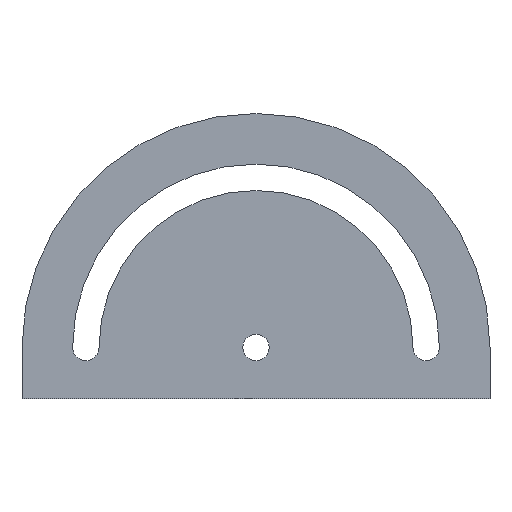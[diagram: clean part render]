
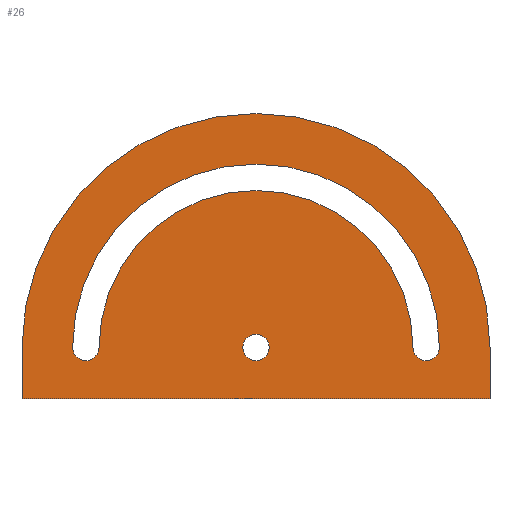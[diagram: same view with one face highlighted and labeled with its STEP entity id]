
A CAD part, left-side view. The second image highlights one B-rep face of the part: STEP entity #26.
In plain terms, the highlighted planar face has unit normal (-1, 0, 0).
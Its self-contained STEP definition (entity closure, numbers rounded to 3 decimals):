
#4 = CARTESIAN_POINT ( 'NONE',  ( -10.582, -43.294, 12. ) ) ;
#10 = ORIENTED_EDGE ( 'NONE', *, *, #97, .F. ) ;
#22 = DIRECTION ( 'NONE',  ( 0., 1., 0. ) ) ;
#26 = ADVANCED_FACE ( 'NONE', ( #772, #575, #186 ), #604, .F. ) ;
#52 = DIRECTION ( 'NONE',  ( 0., -1., 0. ) ) ;
#58 = CARTESIAN_POINT ( 'NONE',  ( -10.582, 11.706, 12. ) ) ;
#59 = DIRECTION ( 'NONE',  ( -1., 0., 0. ) ) ;
#62 = CIRCLE ( 'NONE', #657, 3.1 ) ;
#93 = CARTESIAN_POINT ( 'NONE',  ( -10.582, -98.294, 0. ) ) ;
#97 = EDGE_CURVE ( 'NONE', #469, #136, #62, .T. ) ;
#115 = DIRECTION ( 'NONE',  ( 0., 0., -1. ) ) ;
#120 = VERTEX_POINT ( 'NONE', #219 ) ;
#126 = ORIENTED_EDGE ( 'NONE', *, *, #864, .T. ) ;
#127 = CARTESIAN_POINT ( 'NONE',  ( -10.582, 11.706, 3. ) ) ;
#132 = EDGE_CURVE ( 'NONE', #136, #469, #595, .T. ) ;
#134 = CIRCLE ( 'NONE', #925, 36.9 ) ;
#136 = VERTEX_POINT ( 'NONE', #654 ) ;
#147 = VERTEX_POINT ( 'NONE', #449 ) ;
#168 = CIRCLE ( 'NONE', #549, 3.1 ) ;
#178 = DIRECTION ( 'NONE',  ( 0., -1., 0. ) ) ;
#182 = DIRECTION ( 'NONE',  ( 0., -1., 0. ) ) ;
#184 = VERTEX_POINT ( 'NONE', #809 ) ;
#186 = FACE_BOUND ( 'NONE', #818, .T. ) ;
#219 = CARTESIAN_POINT ( 'NONE',  ( -10.582, -86.394, 12. ) ) ;
#226 = EDGE_LOOP ( 'NONE', ( #612, #911, #529, #373 ) ) ;
#230 = VECTOR ( 'NONE', #115, 1000. ) ;
#252 = CARTESIAN_POINT ( 'NONE',  ( -10.582, -43.294, 12. ) ) ;
#280 = LINE ( 'NONE', #711, #671 ) ;
#288 = DIRECTION ( 'NONE',  ( -1., 0., 0. ) ) ;
#291 = ORIENTED_EDGE ( 'NONE', *, *, #913, .T. ) ;
#307 = CIRCLE ( 'NONE', #380, 3.1 ) ;
#356 = EDGE_CURVE ( 'NONE', #147, #880, #459, .T. ) ;
#373 = ORIENTED_EDGE ( 'NONE', *, *, #817, .F. ) ;
#376 = VERTEX_POINT ( 'NONE', #430 ) ;
#380 = AXIS2_PLACEMENT_3D ( 'NONE', #578, #717, #777 ) ;
#384 = CARTESIAN_POINT ( 'NONE',  ( -10.582, 11.706, 3. ) ) ;
#393 = ORIENTED_EDGE ( 'NONE', *, *, #132, .F. ) ;
#406 = AXIS2_PLACEMENT_3D ( 'NONE', #850, #59, #52 ) ;
#423 = AXIS2_PLACEMENT_3D ( 'NONE', #384, #663, #22 ) ;
#430 = CARTESIAN_POINT ( 'NONE',  ( -10.582, -6.394, 12. ) ) ;
#431 = EDGE_CURVE ( 'NONE', #147, #700, #768, .T. ) ;
#449 = CARTESIAN_POINT ( 'NONE',  ( -10.582, -98.294, 12. ) ) ;
#455 = DIRECTION ( 'NONE',  ( -1., 0., 0. ) ) ;
#459 = CIRCLE ( 'NONE', #406, 55. ) ;
#469 = VERTEX_POINT ( 'NONE', #651 ) ;
#516 = EDGE_LOOP ( 'NONE', ( #126, #778, #849, #291 ) ) ;
#529 = ORIENTED_EDGE ( 'NONE', *, *, #690, .F. ) ;
#549 = AXIS2_PLACEMENT_3D ( 'NONE', #622, #623, #830 ) ;
#564 = VERTEX_POINT ( 'NONE', #891 ) ;
#575 = FACE_BOUND ( 'NONE', #226, .T. ) ;
#578 = CARTESIAN_POINT ( 'NONE',  ( -10.582, -83.294, 12. ) ) ;
#595 = CIRCLE ( 'NONE', #754, 3.1 ) ;
#604 = PLANE ( 'NONE',  #423 ) ;
#612 = ORIENTED_EDGE ( 'NONE', *, *, #769, .F. ) ;
#622 = CARTESIAN_POINT ( 'NONE',  ( -10.582, -3.294, 12. ) ) ;
#623 = DIRECTION ( 'NONE',  ( -1., 0., 0. ) ) ;
#649 = CARTESIAN_POINT ( 'NONE',  ( -10.582, -80.194, 12. ) ) ;
#651 = CARTESIAN_POINT ( 'NONE',  ( -10.582, -46.394, 12. ) ) ;
#654 = CARTESIAN_POINT ( 'NONE',  ( -10.582, -40.194, 12. ) ) ;
#657 = AXIS2_PLACEMENT_3D ( 'NONE', #4, #455, #869 ) ;
#661 = EDGE_CURVE ( 'NONE', #184, #376, #168, .T. ) ;
#663 = DIRECTION ( 'NONE',  ( 1., 0., 0. ) ) ;
#671 = VECTOR ( 'NONE', #847, 1000. ) ;
#682 = CIRCLE ( 'NONE', #732, 43.1 ) ;
#690 = EDGE_CURVE ( 'NONE', #120, #184, #682, .T. ) ;
#691 = DIRECTION ( 'NONE',  ( -1., 0., 0. ) ) ;
#695 = DIRECTION ( 'NONE',  ( 1., 0., 0. ) ) ;
#700 = VERTEX_POINT ( 'NONE', #93 ) ;
#703 = CARTESIAN_POINT ( 'NONE',  ( -10.582, -43.294, 12. ) ) ;
#707 = CARTESIAN_POINT ( 'NONE',  ( -10.582, -98.294, 3. ) ) ;
#711 = CARTESIAN_POINT ( 'NONE',  ( -10.582, 11.706, 0. ) ) ;
#716 = LINE ( 'NONE', #127, #230 ) ;
#717 = DIRECTION ( 'NONE',  ( -1., 0., 0. ) ) ;
#726 = DIRECTION ( 'NONE',  ( 0., -1., 0. ) ) ;
#732 = AXIS2_PLACEMENT_3D ( 'NONE', #703, #691, #178 ) ;
#754 = AXIS2_PLACEMENT_3D ( 'NONE', #796, #288, #726 ) ;
#768 = LINE ( 'NONE', #707, #895 ) ;
#769 = EDGE_CURVE ( 'NONE', #376, #819, #134, .T. ) ;
#772 = FACE_OUTER_BOUND ( 'NONE', #516, .T. ) ;
#777 = DIRECTION ( 'NONE',  ( 0., -1., 0. ) ) ;
#778 = ORIENTED_EDGE ( 'NONE', *, *, #431, .F. ) ;
#793 = DIRECTION ( 'NONE',  ( 0., 0., -1. ) ) ;
#796 = CARTESIAN_POINT ( 'NONE',  ( -10.582, -43.294, 12. ) ) ;
#809 = CARTESIAN_POINT ( 'NONE',  ( -10.582, -0.194, 12. ) ) ;
#817 = EDGE_CURVE ( 'NONE', #819, #120, #307, .T. ) ;
#818 = EDGE_LOOP ( 'NONE', ( #10, #393 ) ) ;
#819 = VERTEX_POINT ( 'NONE', #649 ) ;
#830 = DIRECTION ( 'NONE',  ( 0., -1., 0. ) ) ;
#847 = DIRECTION ( 'NONE',  ( 0., -1., 0. ) ) ;
#849 = ORIENTED_EDGE ( 'NONE', *, *, #356, .T. ) ;
#850 = CARTESIAN_POINT ( 'NONE',  ( -10.582, -43.294, 12. ) ) ;
#864 = EDGE_CURVE ( 'NONE', #564, #700, #280, .T. ) ;
#869 = DIRECTION ( 'NONE',  ( 0., -1., 0. ) ) ;
#880 = VERTEX_POINT ( 'NONE', #58 ) ;
#891 = CARTESIAN_POINT ( 'NONE',  ( -10.582, 11.706, 0. ) ) ;
#895 = VECTOR ( 'NONE', #793, 1000. ) ;
#911 = ORIENTED_EDGE ( 'NONE', *, *, #661, .F. ) ;
#913 = EDGE_CURVE ( 'NONE', #880, #564, #716, .T. ) ;
#925 = AXIS2_PLACEMENT_3D ( 'NONE', #252, #695, #182 ) ;
